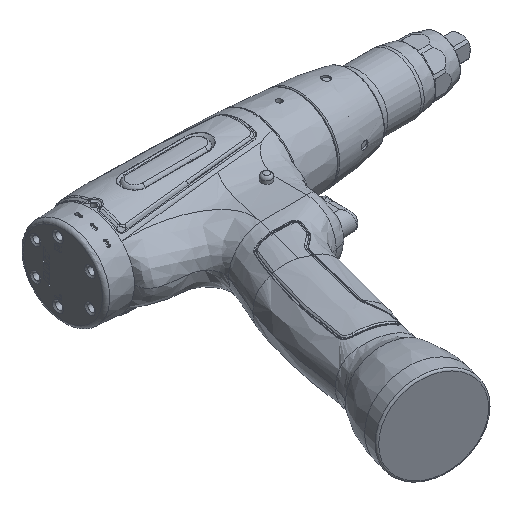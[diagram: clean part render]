
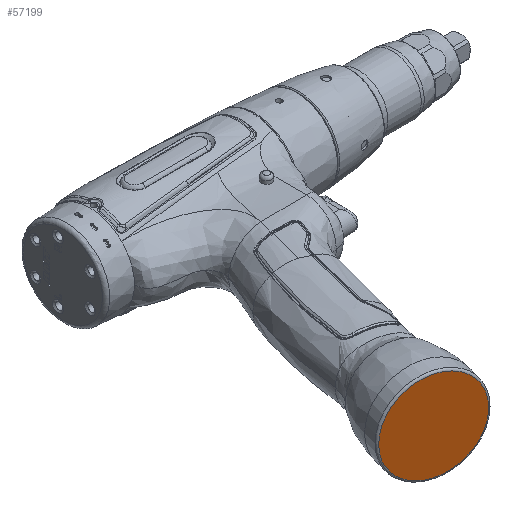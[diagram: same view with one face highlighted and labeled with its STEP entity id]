
A CAD part, isometric view. The second image highlights one B-rep face of the part: STEP entity #57199.
In plain terms, the highlighted planar face has unit normal (-0.259, -0.966, 0).
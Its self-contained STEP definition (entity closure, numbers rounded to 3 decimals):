
#6806 = FACE_OUTER_BOUND ( 'NONE', #35489, .T. ) ;
#11103 = CARTESIAN_POINT ( 'NONE',  ( -98.113, -167.24, 0. ) ) ;
#17100 = CARTESIAN_POINT ( 'NONE',  ( -98.113, -167.24, 0. ) ) ;
#22050 = DIRECTION ( 'NONE',  ( 0.966, -0.259, 0. ) ) ;
#33101 = AXIS2_PLACEMENT_3D ( 'NONE', #17100, #51578, #22050 ) ;
#33372 = AXIS2_PLACEMENT_3D ( 'NONE', #11103, #45325, #50516 ) ;
#35489 = EDGE_LOOP ( 'NONE', ( #56997 ) ) ;
#37311 = CIRCLE ( 'NONE', #33101, 23.75 ) ;
#40605 = PLANE ( 'NONE',  #33372 ) ;
#40894 = VERTEX_POINT ( 'NONE', #41663 ) ;
#41663 = CARTESIAN_POINT ( 'NONE',  ( -75.172, -173.387, 0. ) ) ;
#45325 = DIRECTION ( 'NONE',  ( -0.259, -0.966, 0. ) ) ;
#50516 = DIRECTION ( 'NONE',  ( 0.966, -0.259, 0. ) ) ;
#51578 = DIRECTION ( 'NONE',  ( -0.259, -0.966, 0. ) ) ;
#56997 = ORIENTED_EDGE ( 'NONE', *, *, #61674, .T. ) ;
#57199 = ADVANCED_FACE ( 'NONE', ( #6806 ), #40605, .T. ) ;
#61674 = EDGE_CURVE ( 'NONE', #40894, #40894, #37311, .T. ) ;
